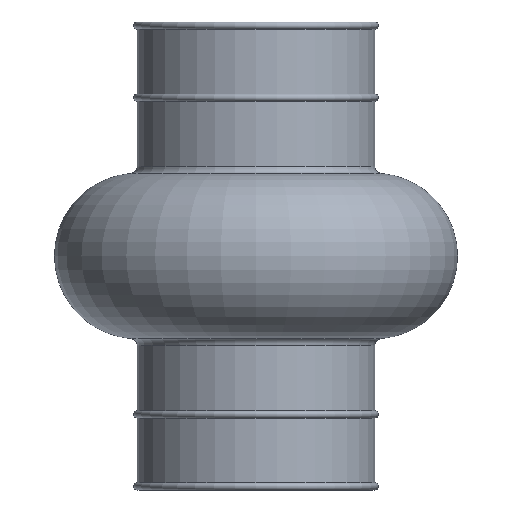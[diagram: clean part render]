
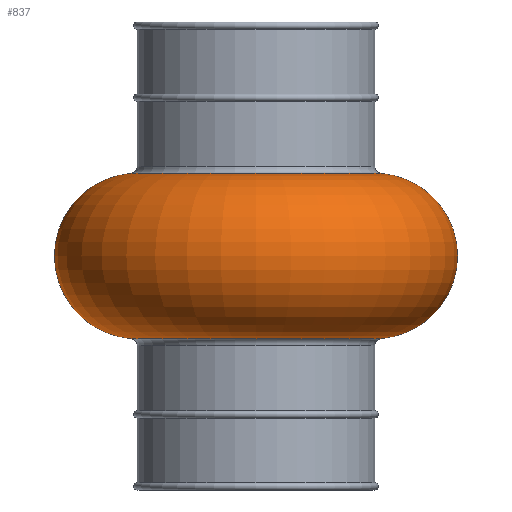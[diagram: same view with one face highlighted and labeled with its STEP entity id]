
A CAD part, left-side view. The second image highlights one B-rep face of the part: STEP entity #837.
In plain terms, the highlighted toroidal (fillet/blend) face has major radius 16.5 mm and minor radius 11.5 mm.
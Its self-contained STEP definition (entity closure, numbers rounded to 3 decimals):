
#6 = CIRCLE ( 'NONE', #357, 17.42 ) ;
#13 = EDGE_CURVE ( 'NONE', #340, #252, #438, .T. ) ;
#16 = CARTESIAN_POINT ( 'NONE',  ( 0., -17.42, -11.463 ) ) ;
#17 = DIRECTION ( 'NONE',  ( 0., 0., 1. ) ) ;
#50 = ORIENTED_EDGE ( 'NONE', *, *, #791, .T. ) ;
#73 = CARTESIAN_POINT ( 'NONE',  ( 0., 0., -11.463 ) ) ;
#125 = CIRCLE ( 'NONE', #664, 17.42 ) ;
#133 = EDGE_LOOP ( 'NONE', ( #518, #539, #708, #50 ) ) ;
#134 = DIRECTION ( 'NONE',  ( 0., -1., 0. ) ) ;
#138 = AXIS2_PLACEMENT_3D ( 'NONE', #541, #676, #554 ) ;
#151 = CIRCLE ( 'NONE', #796, 11.5 ) ;
#171 = DIRECTION ( 'NONE',  ( 1., 0., 0. ) ) ;
#252 = VERTEX_POINT ( 'NONE', #838 ) ;
#265 = CARTESIAN_POINT ( 'NONE',  ( 0., -17.42, 11.463 ) ) ;
#340 = VERTEX_POINT ( 'NONE', #858 ) ;
#350 = FACE_OUTER_BOUND ( 'NONE', #133, .T. ) ;
#357 = AXIS2_PLACEMENT_3D ( 'NONE', #428, #779, #711 ) ;
#408 = DIRECTION ( 'NONE',  ( 0., 0., 1. ) ) ;
#428 = CARTESIAN_POINT ( 'NONE',  ( 0., 0., 11.463 ) ) ;
#438 = CIRCLE ( 'NONE', #619, 11.5 ) ;
#448 = VERTEX_POINT ( 'NONE', #16 ) ;
#468 = VERTEX_POINT ( 'NONE', #265 ) ;
#509 = CARTESIAN_POINT ( 'NONE',  ( 0., -16.5, 0. ) ) ;
#518 = ORIENTED_EDGE ( 'NONE', *, *, #661, .F. ) ;
#539 = ORIENTED_EDGE ( 'NONE', *, *, #633, .T. ) ;
#541 = CARTESIAN_POINT ( 'NONE',  ( 0., 0., 0. ) ) ;
#542 = CARTESIAN_POINT ( 'NONE',  ( 0., 16.5, 0. ) ) ;
#554 = DIRECTION ( 'NONE',  ( 0., 1., 0. ) ) ;
#619 = AXIS2_PLACEMENT_3D ( 'NONE', #542, #745, #17 ) ;
#633 = EDGE_CURVE ( 'NONE', #468, #340, #6, .T. ) ;
#653 = DIRECTION ( 'NONE',  ( 0., 1., 0. ) ) ;
#661 = EDGE_CURVE ( 'NONE', #468, #448, #151, .T. ) ;
#664 = AXIS2_PLACEMENT_3D ( 'NONE', #73, #408, #134 ) ;
#676 = DIRECTION ( 'NONE',  ( 0., 0., -1. ) ) ;
#708 = ORIENTED_EDGE ( 'NONE', *, *, #13, .T. ) ;
#711 = DIRECTION ( 'NONE',  ( 0., 1., 0. ) ) ;
#745 = DIRECTION ( 'NONE',  ( -1., 0., 0. ) ) ;
#779 = DIRECTION ( 'NONE',  ( 0., 0., -1. ) ) ;
#791 = EDGE_CURVE ( 'NONE', #252, #448, #125, .T. ) ;
#796 = AXIS2_PLACEMENT_3D ( 'NONE', #509, #171, #653 ) ;
#837 = ADVANCED_FACE ( 'NONE', ( #350 ), #861, .T. ) ;
#838 = CARTESIAN_POINT ( 'NONE',  ( 0., 17.42, -11.463 ) ) ;
#858 = CARTESIAN_POINT ( 'NONE',  ( 0., 17.42, 11.463 ) ) ;
#861 = TOROIDAL_SURFACE ( 'NONE', #138, 16.5, 11.5 ) ;
